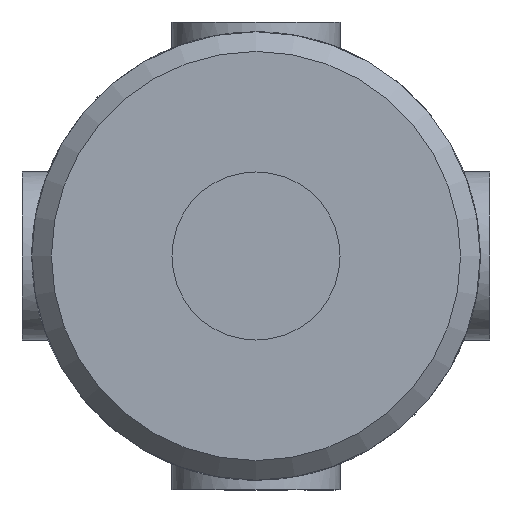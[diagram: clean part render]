
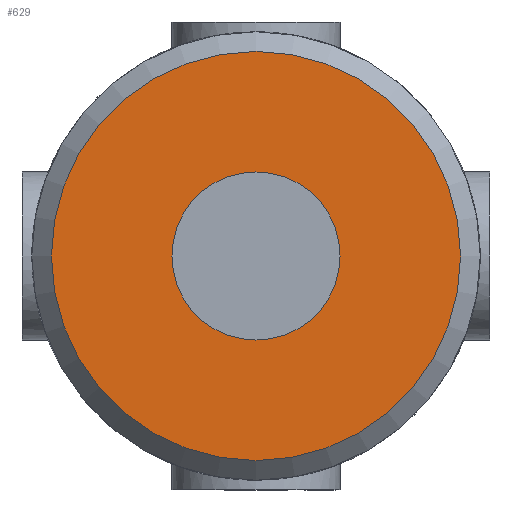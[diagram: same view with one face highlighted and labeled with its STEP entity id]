
A CAD part, front view. The second image highlights one B-rep face of the part: STEP entity #629.
In plain terms, the highlighted planar face has unit normal (0, -1, 0).
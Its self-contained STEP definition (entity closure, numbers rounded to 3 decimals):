
#121=PLANE('',#688);
#147=FACE_BOUND('',#231,.T.);
#174=FACE_OUTER_BOUND('',#230,.T.);
#230=EDGE_LOOP('',(#498));
#231=EDGE_LOOP('',(#499));
#274=CIRCLE('',#682,3.);
#277=CIRCLE('',#686,7.3);
#313=VERTEX_POINT('',#974);
#316=VERTEX_POINT('',#981);
#379=EDGE_CURVE('',#313,#313,#274,.T.);
#382=EDGE_CURVE('',#316,#316,#277,.T.);
#498=ORIENTED_EDGE('',*,*,#382,.F.);
#499=ORIENTED_EDGE('',*,*,#379,.T.);
#629=ADVANCED_FACE('',(#174,#147),#121,.F.);
#682=AXIS2_PLACEMENT_3D('',#975,#799,#800);
#686=AXIS2_PLACEMENT_3D('',#982,#807,#808);
#688=AXIS2_PLACEMENT_3D('',#1150,#815,#816);
#799=DIRECTION('center_axis',(0.,1.,0.));
#800=DIRECTION('ref_axis',(-1.,0.,0.));
#807=DIRECTION('center_axis',(0.,1.,0.));
#808=DIRECTION('ref_axis',(1.,0.,0.));
#815=DIRECTION('center_axis',(0.,1.,0.));
#816=DIRECTION('ref_axis',(0.,0.,1.));
#974=CARTESIAN_POINT('',(3.,-21.,0.));
#975=CARTESIAN_POINT('Origin',(0.,-21.,0.));
#981=CARTESIAN_POINT('',(-7.3,-21.,0.));
#982=CARTESIAN_POINT('Origin',(0.,-21.,0.));
#1150=CARTESIAN_POINT('Origin',(0.,-21.,0.));
